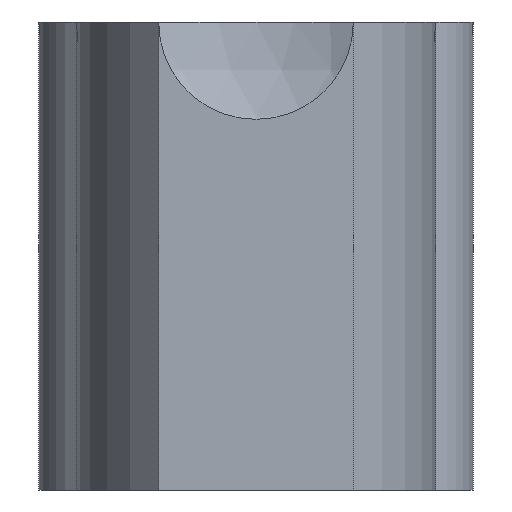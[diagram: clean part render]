
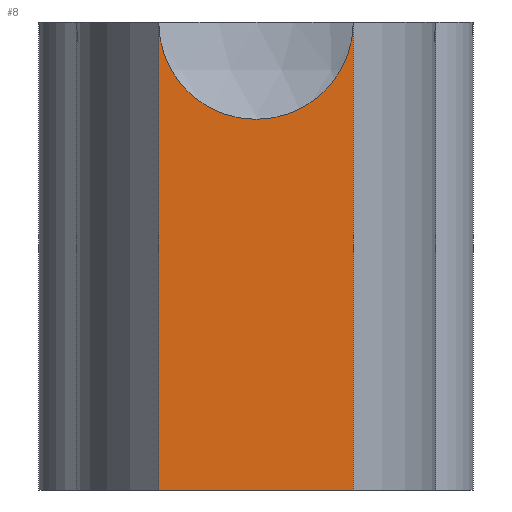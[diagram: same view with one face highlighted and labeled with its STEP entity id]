
A CAD part, front view. The second image highlights one B-rep face of the part: STEP entity #8.
In plain terms, the highlighted planar face has unit normal (0, -1, 0).
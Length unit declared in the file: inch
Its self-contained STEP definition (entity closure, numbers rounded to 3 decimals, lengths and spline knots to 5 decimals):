
#4 = ORIENTED_EDGE ( 'NONE', *, *, #366, .F. ) ;
#8 = ADVANCED_FACE ( 'NONE', ( #491 ), #81, .F. ) ;
#16 = VERTEX_POINT ( 'NONE', #597 ) ;
#18 = LINE ( 'NONE', #91, #607 ) ;
#34 = EDGE_CURVE ( 'NONE', #396, #16, #18, .T. ) ;
#59 = AXIS2_PLACEMENT_3D ( 'NONE', #112, #566, #728 ) ;
#64 = CIRCLE ( 'NONE', #439, 0.13 ) ;
#75 = CARTESIAN_POINT ( 'NONE',  ( 0.63, 0., 0. ) ) ;
#81 = PLANE ( 'NONE',  #713 ) ;
#86 = ORIENTED_EDGE ( 'NONE', *, *, #203, .F. ) ;
#87 = VERTEX_POINT ( 'NONE', #614 ) ;
#91 = CARTESIAN_POINT ( 'NONE',  ( 0., 0., 0. ) ) ;
#110 = CARTESIAN_POINT ( 'NONE',  ( 0.63, 0., 0.625 ) ) ;
#112 = CARTESIAN_POINT ( 'NONE',  ( 0.5, 0., 0.625 ) ) ;
#113 = DIRECTION ( 'NONE',  ( 0., -1., 0. ) ) ;
#148 = LINE ( 'NONE', #390, #535 ) ;
#156 = CARTESIAN_POINT ( 'NONE',  ( 0.37, 0., 0. ) ) ;
#159 = LINE ( 'NONE', #75, #192 ) ;
#162 = ORIENTED_EDGE ( 'NONE', *, *, #34, .T. ) ;
#175 = VERTEX_POINT ( 'NONE', #110 ) ;
#187 = CARTESIAN_POINT ( 'NONE',  ( 0.5, 0., 0.625 ) ) ;
#192 = VECTOR ( 'NONE', #204, 39.37008 ) ;
#203 = EDGE_CURVE ( 'NONE', #87, #175, #64, .T. ) ;
#204 = DIRECTION ( 'NONE',  ( 0., 0., 1. ) ) ;
#211 = CARTESIAN_POINT ( 'NONE',  ( 0., 0., 0.625 ) ) ;
#262 = DIRECTION ( 'NONE',  ( 0., 0., 1. ) ) ;
#292 = EDGE_CURVE ( 'NONE', #16, #175, #159, .T. ) ;
#340 = CARTESIAN_POINT ( 'NONE',  ( 0.37, 0., 0.625 ) ) ;
#366 = EDGE_CURVE ( 'NONE', #396, #584, #148, .T. ) ;
#371 = DIRECTION ( 'NONE',  ( 0., 1., 0. ) ) ;
#390 = CARTESIAN_POINT ( 'NONE',  ( 0.37, 0., 0. ) ) ;
#396 = VERTEX_POINT ( 'NONE', #156 ) ;
#423 = ORIENTED_EDGE ( 'NONE', *, *, #292, .T. ) ;
#439 = AXIS2_PLACEMENT_3D ( 'NONE', #187, #113, #583 ) ;
#460 = CIRCLE ( 'NONE', #59, 0.13 ) ;
#491 = FACE_OUTER_BOUND ( 'NONE', #511, .T. ) ;
#511 = EDGE_LOOP ( 'NONE', ( #423, #86, #553, #4, #162 ) ) ;
#535 = VECTOR ( 'NONE', #667, 39.37008 ) ;
#553 = ORIENTED_EDGE ( 'NONE', *, *, #625, .F. ) ;
#566 = DIRECTION ( 'NONE',  ( 0., -1., 0. ) ) ;
#583 = DIRECTION ( 'NONE',  ( 0., 0., -1. ) ) ;
#584 = VERTEX_POINT ( 'NONE', #340 ) ;
#597 = CARTESIAN_POINT ( 'NONE',  ( 0.63, 0., 0. ) ) ;
#607 = VECTOR ( 'NONE', #608, 39.37008 ) ;
#608 = DIRECTION ( 'NONE',  ( 1., 0., 0. ) ) ;
#614 = CARTESIAN_POINT ( 'NONE',  ( 0.5, 0., 0.495 ) ) ;
#625 = EDGE_CURVE ( 'NONE', #584, #87, #460, .T. ) ;
#667 = DIRECTION ( 'NONE',  ( 0., 0., 1. ) ) ;
#713 = AXIS2_PLACEMENT_3D ( 'NONE', #211, #371, #262 ) ;
#728 = DIRECTION ( 'NONE',  ( 0., 0., -1. ) ) ;
